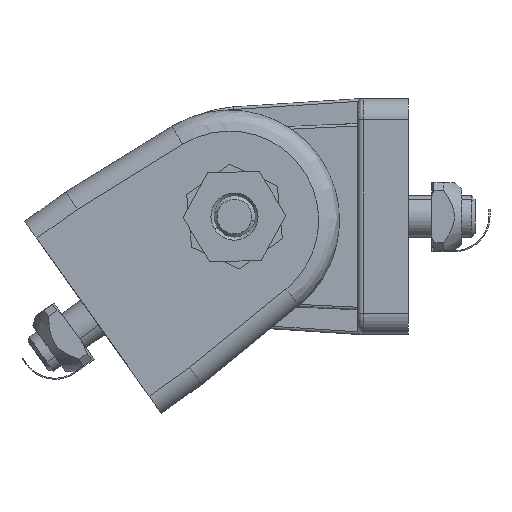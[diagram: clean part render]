
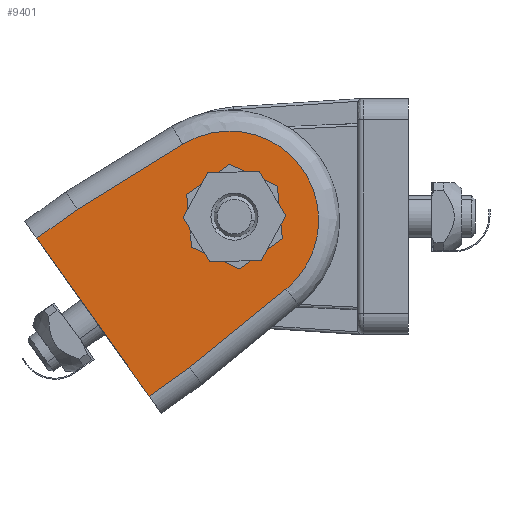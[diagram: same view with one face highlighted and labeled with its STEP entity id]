
A CAD part, left-side view. The second image highlights one B-rep face of the part: STEP entity #9401.
In plain terms, the highlighted planar face has unit normal (-1, 0, 0) as drawn and (1, 0, 0) by its records, which use the part's own axes.
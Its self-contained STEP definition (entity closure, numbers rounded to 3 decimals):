
#7 = VECTOR ( 'NONE', #2570, 1000. ) ;
#144 = EDGE_LOOP ( 'NONE', ( #2726, #5842, #4918, #245, #7919, #1148 ) ) ;
#245 = ORIENTED_EDGE ( 'NONE', *, *, #3996, .F. ) ;
#333 = CARTESIAN_POINT ( 'NONE',  ( 22.5, 43.192, 0. ) ) ;
#624 = DIRECTION ( 'NONE',  ( 0., -0.998, -0.065 ) ) ;
#745 = VERTEX_POINT ( 'NONE', #12693 ) ;
#1148 = ORIENTED_EDGE ( 'NONE', *, *, #6025, .F. ) ;
#1339 = LINE ( 'NONE', #15345, #7 ) ;
#1414 = ORIENTED_EDGE ( 'NONE', *, *, #7066, .T. ) ;
#1492 = CARTESIAN_POINT ( 'NONE',  ( 22.5, 9.6, -18.5 ) ) ;
#1606 = CARTESIAN_POINT ( 'NONE',  ( 22.5, 9.6, 18.5 ) ) ;
#2248 = CARTESIAN_POINT ( 'NONE',  ( 22.5, 9.47, -18.5 ) ) ;
#2279 = CARTESIAN_POINT ( 'NONE',  ( 22.5, 9.6, 8.7 ) ) ;
#2350 = CARTESIAN_POINT ( 'NONE',  ( 22.5, 63.072, -15.017 ) ) ;
#2426 = VECTOR ( 'NONE', #11011, 1000. ) ;
#2448 = LINE ( 'NONE', #2279, #9225 ) ;
#2507 = CARTESIAN_POINT ( 'NONE',  ( 22.5, 9.47, 18.5 ) ) ;
#2513 = DIRECTION ( 'NONE',  ( 0., 1., 0. ) ) ;
#2570 = DIRECTION ( 'NONE',  ( 0., -1., 0. ) ) ;
#2726 = ORIENTED_EDGE ( 'NONE', *, *, #13391, .F. ) ;
#2759 = FACE_OUTER_BOUND ( 'NONE', #144, .T. ) ;
#2774 = VERTEX_POINT ( 'NONE', #6220 ) ;
#3080 = DIRECTION ( 'NONE',  ( 0., -1., 0. ) ) ;
#3131 = VERTEX_POINT ( 'NONE', #3267 ) ;
#3159 = VERTEX_POINT ( 'NONE', #2248 ) ;
#3267 = CARTESIAN_POINT ( 'NONE',  ( 22.5, 33.102, 16.964 ) ) ;
#3996 = EDGE_CURVE ( 'NONE', #12993, #3131, #14783, .T. ) ;
#4000 = CARTESIAN_POINT ( 'NONE',  ( 22.5, 0., -18.5 ) ) ;
#4142 = LINE ( 'NONE', #14226, #14164 ) ;
#4702 = ORIENTED_EDGE ( 'NONE', *, *, #11374, .T. ) ;
#4777 = EDGE_CURVE ( 'NONE', #2774, #7391, #1339, .T. ) ;
#4918 = ORIENTED_EDGE ( 'NONE', *, *, #8819, .F. ) ;
#4949 = LINE ( 'NONE', #16101, #2426 ) ;
#5286 = ORIENTED_EDGE ( 'NONE', *, *, #14856, .T. ) ;
#5305 = EDGE_CURVE ( 'NONE', #745, #7670, #2448, .T. ) ;
#5463 = ORIENTED_EDGE ( 'NONE', *, *, #5305, .T. ) ;
#5546 = CARTESIAN_POINT ( 'NONE',  ( 22.5, 9.6, 22.5 ) ) ;
#5842 = ORIENTED_EDGE ( 'NONE', *, *, #13197, .F. ) ;
#6025 = EDGE_CURVE ( 'NONE', #11451, #13198, #4949, .T. ) ;
#6220 = CARTESIAN_POINT ( 'NONE',  ( 22.5, 38.169, -8.7 ) ) ;
#6503 = VECTOR ( 'NONE', #10215, 1000. ) ;
#6627 = CARTESIAN_POINT ( 'NONE',  ( 22.5, 33.102, -16.964 ) ) ;
#6705 = CARTESIAN_POINT ( 'NONE',  ( 22.5, 0., 18.5 ) ) ;
#6719 = ORIENTED_EDGE ( 'NONE', *, *, #11689, .T. ) ;
#6764 = LINE ( 'NONE', #1492, #13928 ) ;
#7066 = EDGE_CURVE ( 'NONE', #7391, #8248, #10498, .T. ) ;
#7366 = CARTESIAN_POINT ( 'NONE',  ( 22.5, 33.102, -16.964 ) ) ;
#7377 = CARTESIAN_POINT ( 'NONE',  ( 22.5, 28.123, -8.7 ) ) ;
#7391 = VERTEX_POINT ( 'NONE', #7377 ) ;
#7394 = LINE ( 'NONE', #8858, #6503 ) ;
#7486 = EDGE_CURVE ( 'NONE', #13198, #12993, #8935, .T. ) ;
#7488 = VERTEX_POINT ( 'NONE', #6627 ) ;
#7670 = VERTEX_POINT ( 'NONE', #12389 ) ;
#7777 = FACE_BOUND ( 'NONE', #9715, .T. ) ;
#7780 = DIRECTION ( 'NONE',  ( 0., -0.5, -0.866 ) ) ;
#7919 = ORIENTED_EDGE ( 'NONE', *, *, #7486, .F. ) ;
#8042 = DIRECTION ( 'NONE',  ( -1., 0., 0. ) ) ;
#8129 = DIRECTION ( 'NONE',  ( 0., 0., 1. ) ) ;
#8248 = VERTEX_POINT ( 'NONE', #11607 ) ;
#8635 = VECTOR ( 'NONE', #10448, 1000. ) ;
#8819 = EDGE_CURVE ( 'NONE', #3131, #7488, #13998, .T. ) ;
#8858 = CARTESIAN_POINT ( 'NONE',  ( 22.5, 25.051, 31.421 ) ) ;
#8935 = LINE ( 'NONE', #1606, #8635 ) ;
#9060 = CARTESIAN_POINT ( 'NONE',  ( 22.5, 29.468, 11.029 ) ) ;
#9092 = LINE ( 'NONE', #9271, #15690 ) ;
#9129 = ORIENTED_EDGE ( 'NONE', *, *, #4777, .T. ) ;
#9225 = VECTOR ( 'NONE', #2513, 1000. ) ;
#9241 = DIRECTION ( 'NONE',  ( 0., -0.5, 0.866 ) ) ;
#9271 = CARTESIAN_POINT ( 'NONE',  ( 22.5, 44.537, 2.329 ) ) ;
#9401 = ADVANCED_FACE ( 'NONE', ( #2759, #7777 ), #12889, .F. ) ;
#9483 = VECTOR ( 'NONE', #12765, 1000. ) ;
#9715 = EDGE_LOOP ( 'NONE', ( #6719, #9129, #1414, #5286, #5463, #4702 ) ) ;
#9861 = CARTESIAN_POINT ( 'NONE',  ( 22.5, 9.341, 18.508 ) ) ;
#10215 = DIRECTION ( 'NONE',  ( 0., 0.5, -0.866 ) ) ;
#10448 = DIRECTION ( 'NONE',  ( 0., 1., 0. ) ) ;
#10498 = LINE ( 'NONE', #15504, #11835 ) ;
#10949 = DIRECTION ( 'NONE',  ( 0., 0.998, -0.065 ) ) ;
#11011 = DIRECTION ( 'NONE',  ( 0., 0., 1. ) ) ;
#11122 = CARTESIAN_POINT ( 'NONE',  ( 22.5, 63.072, 15.017 ) ) ;
#11374 = EDGE_CURVE ( 'NONE', #7670, #14259, #7394, .T. ) ;
#11393 = LINE ( 'NONE', #9060, #9483 ) ;
#11451 = VERTEX_POINT ( 'NONE', #4000 ) ;
#11607 = CARTESIAN_POINT ( 'NONE',  ( 22.5, 23.1, 0. ) ) ;
#11689 = EDGE_CURVE ( 'NONE', #14259, #2774, #9092, .T. ) ;
#11835 = VECTOR ( 'NONE', #9241, 1000. ) ;
#11902 = VECTOR ( 'NONE', #10949, 1000. ) ;
#12389 = CARTESIAN_POINT ( 'NONE',  ( 22.5, 38.169, 8.7 ) ) ;
#12693 = CARTESIAN_POINT ( 'NONE',  ( 22.5, 28.123, 8.7 ) ) ;
#12765 = DIRECTION ( 'NONE',  ( 0., 0.5, 0.866 ) ) ;
#12889 = PLANE ( 'NONE',  #13974 ) ;
#12993 = VERTEX_POINT ( 'NONE', #2507 ) ;
#13197 = EDGE_CURVE ( 'NONE', #7488, #3159, #4142, .T. ) ;
#13198 = VERTEX_POINT ( 'NONE', #6705 ) ;
#13391 = EDGE_CURVE ( 'NONE', #3159, #11451, #6764, .T. ) ;
#13734 = CARTESIAN_POINT ( 'NONE',  ( 22.5, 33.102, 16.964 ) ) ;
#13928 = VECTOR ( 'NONE', #3080, 1000. ) ;
#13974 = AXIS2_PLACEMENT_3D ( 'NONE', #5546, #8042, #8129 ) ;
#13998 =( BOUNDED_CURVE ( )  B_SPLINE_CURVE ( 3, ( #13734, #11122, #2350, #7366 ),
 .UNSPECIFIED., .F., .F. ) 
 B_SPLINE_CURVE_WITH_KNOTS ( ( 4, 4 ),
 ( 0., 1. ),
 .UNSPECIFIED. ) 
 CURVE ( )  GEOMETRIC_REPRESENTATION_ITEM ( )  RATIONAL_B_SPLINE_CURVE ( ( 1., 0.377, 0.377, 1. ) ) 
 REPRESENTATION_ITEM ( '' )  );
#14164 = VECTOR ( 'NONE', #624, 1000. ) ;
#14226 = CARTESIAN_POINT ( 'NONE',  ( 22.5, 12.253, -18.319 ) ) ;
#14259 = VERTEX_POINT ( 'NONE', #333 ) ;
#14783 = LINE ( 'NONE', #9861, #11902 ) ;
#14856 = EDGE_CURVE ( 'NONE', #8248, #745, #11393, .T. ) ;
#15345 = CARTESIAN_POINT ( 'NONE',  ( 22.5, 9.6, -8.7 ) ) ;
#15504 = CARTESIAN_POINT ( 'NONE',  ( 22.5, 9.982, 22.721 ) ) ;
#15690 = VECTOR ( 'NONE', #7780, 1000. ) ;
#16101 = CARTESIAN_POINT ( 'NONE',  ( 22.5, 0., 0. ) ) ;
